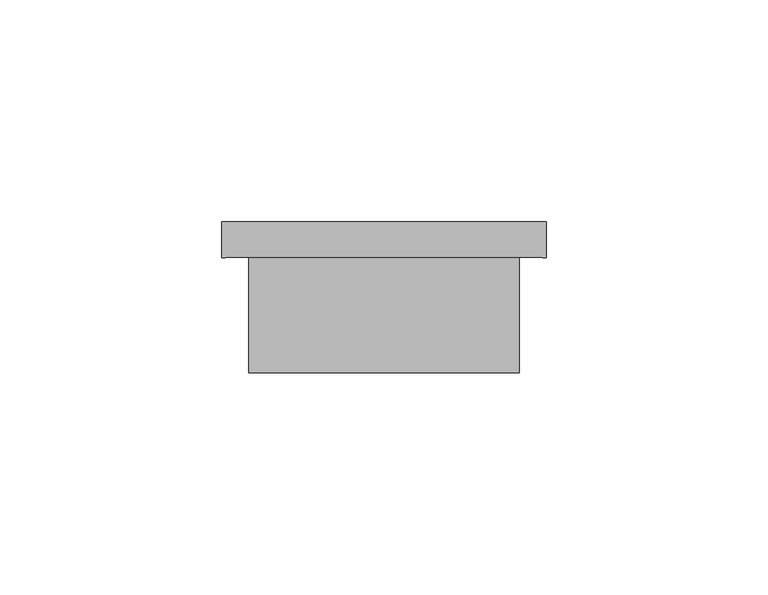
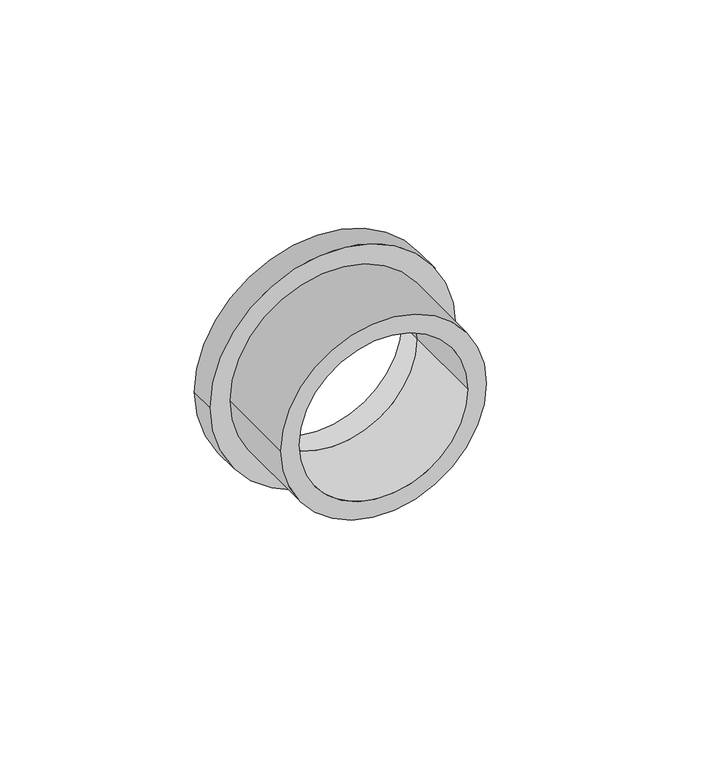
"""IFC4 building model written with IfcOpenShell, lengths in millimetres: pipe fitting geometry, 01051020 : Colarinho."""

from ifc_helpers import new_model, si_unit, point, frame, origin, origin_2d, place, context, project, spatial, circle_curve, trimmed, segment, composite_curve, outline, extrude, source, transform, mapped, element, save


def pipe_fitting_d2cbbd70(model_context):
    return source(origin(), model_context, "Body", "SweptSolid", [
        extrude(outline(composite_curve([segment(trimmed(circle_curve(origin_2d(), 30.5), [point((0.0, -30.5))], [point((0.0, 30.5))], False, "CARTESIAN"), True, "CONTINUOUS"), segment(trimmed(circle_curve(origin_2d(), 30.5), [point((0.0, 30.5))], [point((0.0, -30.5))], False, "CARTESIAN"), True, "CONTINUOUS")], self_intersect=False), holes=[composite_curve([segment(trimmed(circle_curve(origin_2d(), 25.0), [point((0.0, -25.0))], [point((0.0, 25.0))], True, "CARTESIAN"), True, "CONTINUOUS"), segment(trimmed(circle_curve(origin_2d(), 25.0), [point((0.0, 25.0))], [point((0.0, -25.0))], True, "CARTESIAN"), True, "CONTINUOUS")], self_intersect=False)]), frame((0.0, -26.0, 0.0), z_axis=(0.0, 1.0, 0.0), x_axis=(0.0, 0.0, 1.0)), (0.0, 0.0, 1.0), 26.0),
        extrude(outline(composite_curve([segment(trimmed(circle_curve(origin_2d(), 36.5), [point((0.0, -36.5))], [point((0.0, 36.5))], False, "CARTESIAN"), True, "CONTINUOUS"), segment(trimmed(circle_curve(origin_2d(), 36.5), [point((0.0, 36.5))], [point((0.0, -36.5))], False, "CARTESIAN"), True, "CONTINUOUS")], self_intersect=False), holes=[composite_curve([segment(trimmed(circle_curve(origin_2d(), 25.0), [point((0.0, -25.0))], [point((0.0, 25.0))], True, "CARTESIAN"), True, "CONTINUOUS"), segment(trimmed(circle_curve(origin_2d(), 25.0), [point((0.0, 25.0))], [point((0.0, -25.0))], True, "CARTESIAN"), True, "CONTINUOUS")], self_intersect=False)]), frame((0.0, 0.0, 0.0), z_axis=(0.0, 1.0, 0.0), x_axis=(0.0, 0.0, 1.0)), (0.0, 0.0, 1.0), 8.0),
    ])


if __name__ == "__main__":
    model = new_model("IFC4")
    model_context = context("Model", 3, world=origin())
    ifc_project = project(units=[si_unit("LENGTHUNIT", "METRE", prefix="MILLI")], contexts=[model_context])
    site = spatial("IfcSite", under=ifc_project)
    building = spatial("IfcBuilding", under=site)
    placement = place(None, origin())
    pipe_fitting_shape = pipe_fitting_d2cbbd70(model_context)
    element("IfcPipeFitting", 1, ObjectType="01051020 : Colarinho", at=placement, inside=building, context=model_context, shape_type="MappedRepresentation", body=[
        mapped(pipe_fitting_shape, transform((0.0, 0.0, 0.0), x_axis=(1.0, 0.0, 0.0), y_axis=(0.0, 1.0, 0.0), z_axis=(0.0, 0.0, 1.0))),
    ])
    save(model, "model.ifc")
